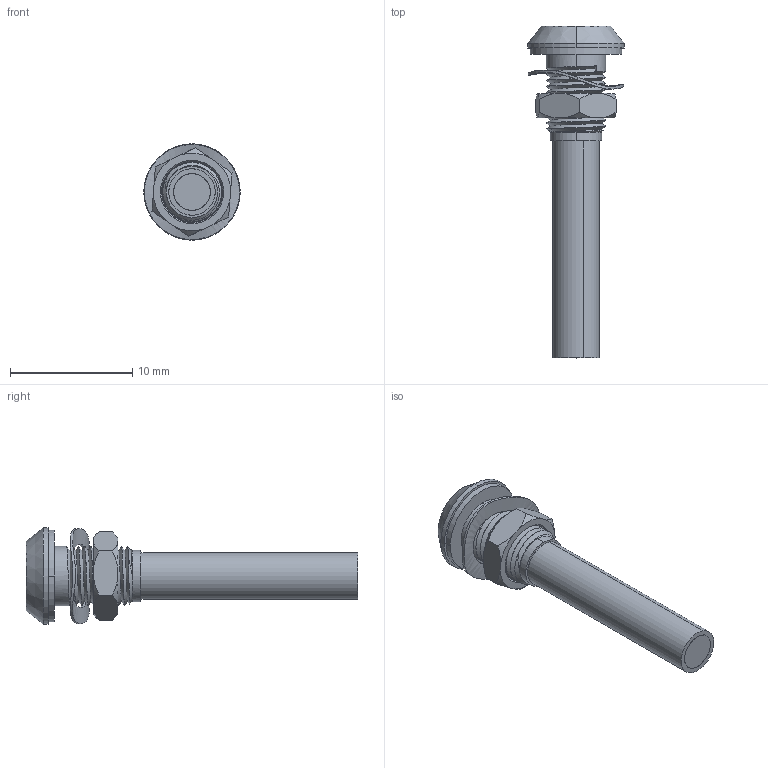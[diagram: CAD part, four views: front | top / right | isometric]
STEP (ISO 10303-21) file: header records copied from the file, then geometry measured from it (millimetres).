
FILE_DESCRIPTION (( 'STEP AP214' ), '1' );
FILE_NAME ('602-000-00-52.STEP', '2022-01-11T08:36:00', ( '' ), ( '' ), 'SwSTEP 2.0', 'SolidWorks 2021', '' );
FILE_SCHEMA (( 'AUTOMOTIVE_DESIGN' ));
Length unit declared in the file: millimetre
Products named in the file (8): PLP2-1000_-52; 5mm wavy washer; COM2421; HeatShrink_-52; 602-000-00-52; COM4316_1mm shorter; COM10992; COM3575 - COM3579_COM3579
Assembly tree (7 placements, depth 2):
  602-000-00-52
    COM10992
    5mm wavy washer
    COM2421
    PLP2-1000_-52
    COM3575 - COM3579_COM3579
    COM4316_1mm shorter
    HeatShrink_-52
Bounding box: 7.9 x 27.2 x 7.9 mm (x, y, z)
Volume: 400.1 mm3; surface area: 1331.2 mm2
Topology: 7 solids, 7 shells, 171 faces, 378 edges, 238 vertices
Faces by surface type: cylinder 75, plane 35, torus 32, cone 25, bspline 4
Entity records: 6602 total; most frequent: CARTESIAN_POINT 2532, DIRECTION 839, ORIENTED_EDGE 754, EDGE_CURVE 377, AXIS2_PLACEMENT_3D 367, VERTEX_POINT 236, EDGE_LOOP 197, CIRCLE 190
